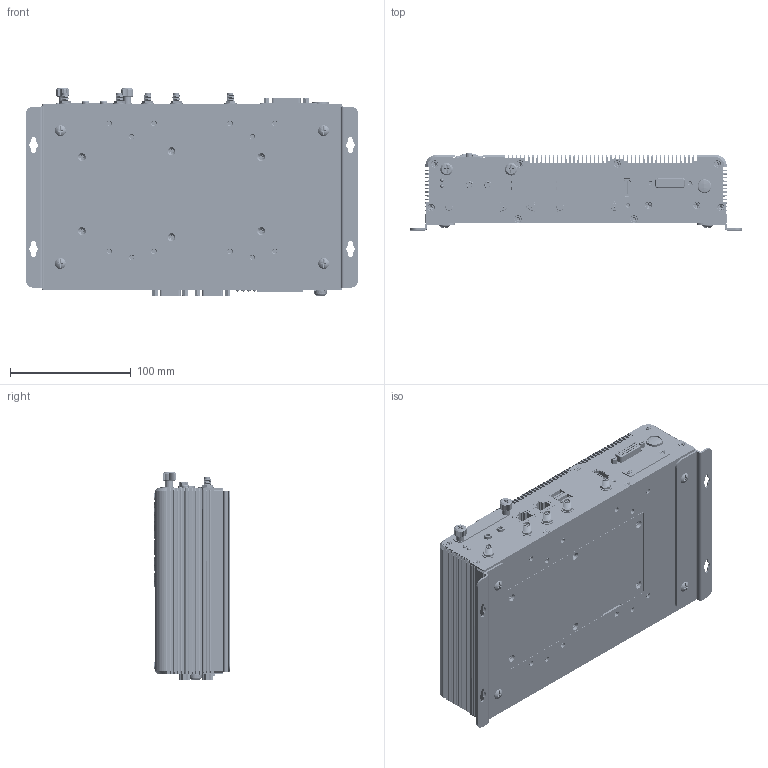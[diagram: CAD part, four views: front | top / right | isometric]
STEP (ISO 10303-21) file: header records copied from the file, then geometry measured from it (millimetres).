
FILE_DESCRIPTION((''),'2;1');
FILE_NAME('V2403','2015-09-03T',('Albert_Lin'),(''),'PRO/ENGINEER BY PARAMETRIC TECHNOLOGY CORPORATION, 2013230','PRO/ENGINEER BY PARAMETRIC TECHNOLOGY CORPORATION, 2013230','');
FILE_SCHEMA(('CONFIG_CONTROL_DESIGN'));
Length unit declared in the file: millimetre
Products named in the file (1): V2403
Bounding box: 275 x 63.75 x 172 mm (x, y, z)
Volume: 627636.9 mm3; surface area: 434623.2 mm2
Topology: 33 solids, 131 shells, 8956 faces, 23381 edges, 15106 vertices
Faces by surface type: plane 4176, cylinder 3297, bspline 510, torus 402, cone 382, sphere 132, extrusion 41, revolution 16
Entity records: 410884 total; most frequent: CARTESIAN_POINT 161524, ORIENTED_EDGE 46362, DIRECTION 40815, EDGE_CURVE 23301, VERTEX_POINT 15114, AXIS2_PLACEMENT_3D 14296, VECTOR 12207, LINE 12166
